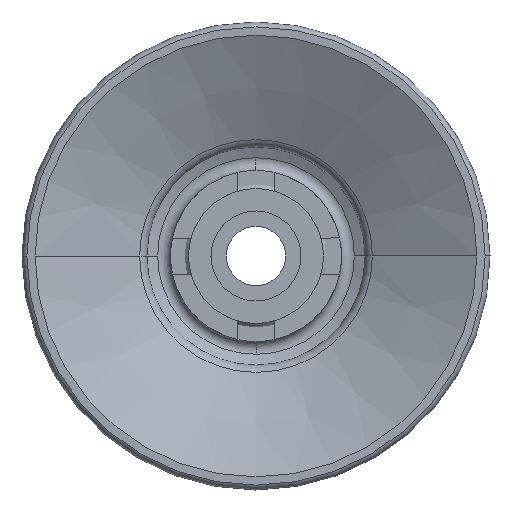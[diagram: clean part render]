
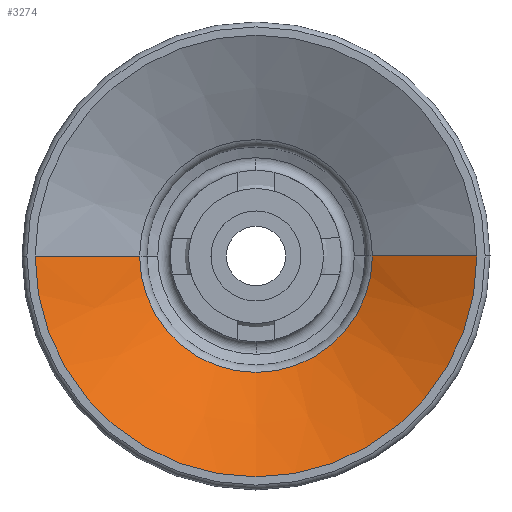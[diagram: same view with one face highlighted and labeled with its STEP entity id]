
A CAD part, front view. The second image highlights one B-rep face of the part: STEP entity #3274.
In plain terms, the highlighted conical face has half-angle 62.925 degrees and reference radius 6.466 mm.
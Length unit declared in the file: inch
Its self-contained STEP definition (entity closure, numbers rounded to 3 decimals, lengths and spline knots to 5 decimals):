
#4 = VECTOR ( 'NONE', #3591, 39.37008 ) ;
#71 = CIRCLE ( 'NONE', #2813, 0.25458 ) ;
#150 = CARTESIAN_POINT ( 'NONE',  ( 0., 0., -0.41539 ) ) ;
#171 = EDGE_CURVE ( 'NONE', #3126, #1534, #71, .T. ) ;
#187 = CIRCLE ( 'NONE', #1298, 0.48308 ) ;
#261 = CARTESIAN_POINT ( 'NONE',  ( 0.25458, 0., -0.41539 ) ) ;
#301 = CARTESIAN_POINT ( 'NONE',  ( 0., 0., -0.53219 ) ) ;
#575 = DIRECTION ( 'NONE',  ( 1., 0., 0. ) ) ;
#579 = EDGE_CURVE ( 'NONE', #1534, #1438, #2194, .T. ) ;
#580 = ORIENTED_EDGE ( 'NONE', *, *, #1727, .F. ) ;
#695 = CARTESIAN_POINT ( 'NONE',  ( 0.48308, 0., -0.53219 ) ) ;
#770 = CARTESIAN_POINT ( 'NONE',  ( -0.25458, 0., -0.41539 ) ) ;
#803 = DIRECTION ( 'NONE',  ( 0., 0., -1. ) ) ;
#1072 = EDGE_LOOP ( 'NONE', ( #3018, #2386, #580, #1781 ) ) ;
#1073 = CARTESIAN_POINT ( 'NONE',  ( 0., 0., -0.41539 ) ) ;
#1168 = AXIS2_PLACEMENT_3D ( 'NONE', #1073, #2784, #2748 ) ;
#1252 = EDGE_CURVE ( 'NONE', #3126, #2446, #3317, .T. ) ;
#1298 = AXIS2_PLACEMENT_3D ( 'NONE', #301, #2282, #3372 ) ;
#1438 = VERTEX_POINT ( 'NONE', #2482 ) ;
#1534 = VERTEX_POINT ( 'NONE', #2499 ) ;
#1671 = FACE_OUTER_BOUND ( 'NONE', #1072, .T. ) ;
#1727 = EDGE_CURVE ( 'NONE', #1438, #2446, #187, .T. ) ;
#1781 = ORIENTED_EDGE ( 'NONE', *, *, #579, .F. ) ;
#2181 = VECTOR ( 'NONE', #3267, 39.37008 ) ;
#2194 = LINE ( 'NONE', #770, #2181 ) ;
#2282 = DIRECTION ( 'NONE',  ( 0., 0., 1. ) ) ;
#2386 = ORIENTED_EDGE ( 'NONE', *, *, #1252, .T. ) ;
#2446 = VERTEX_POINT ( 'NONE', #695 ) ;
#2482 = CARTESIAN_POINT ( 'NONE',  ( -0.48308, 0., -0.53219 ) ) ;
#2499 = CARTESIAN_POINT ( 'NONE',  ( -0.25458, 0., -0.41539 ) ) ;
#2748 = DIRECTION ( 'NONE',  ( -1., 0., 0. ) ) ;
#2784 = DIRECTION ( 'NONE',  ( 0., 0., -1. ) ) ;
#2813 = AXIS2_PLACEMENT_3D ( 'NONE', #150, #803, #575 ) ;
#3018 = ORIENTED_EDGE ( 'NONE', *, *, #171, .F. ) ;
#3126 = VERTEX_POINT ( 'NONE', #3203 ) ;
#3203 = CARTESIAN_POINT ( 'NONE',  ( 0.25458, 0., -0.41539 ) ) ;
#3267 = DIRECTION ( 'NONE',  ( -0.89, 0., -0.455 ) ) ;
#3274 = ADVANCED_FACE ( 'NONE', ( #1671 ), #3369, .F. ) ;
#3317 = LINE ( 'NONE', #261, #4 ) ;
#3369 = CONICAL_SURFACE ( 'NONE', #1168, 0.25458, 1.098 ) ;
#3372 = DIRECTION ( 'NONE',  ( 1., 0., 0. ) ) ;
#3591 = DIRECTION ( 'NONE',  ( 0.89, 0., -0.455 ) ) ;
